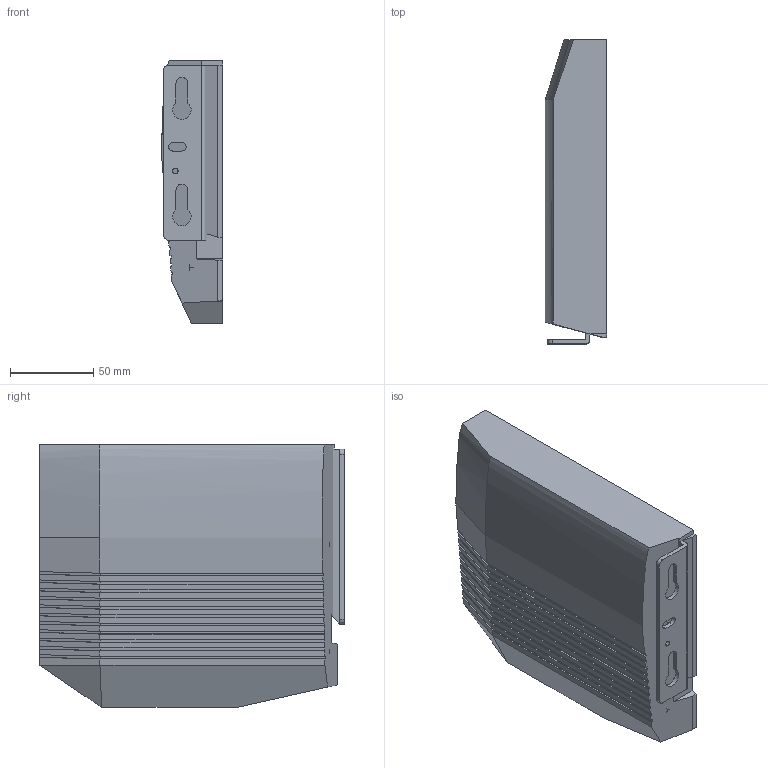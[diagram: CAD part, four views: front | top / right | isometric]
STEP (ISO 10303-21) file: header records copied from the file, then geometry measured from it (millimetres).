
FILE_DESCRIPTION (( 'STEP AP203' ), '1' );
FILE_NAME ('Kinvaro_T-75_rechts_D2762003325~0.step', '2012-05-04T06:54:46', ( 'admin' ), ( 'Hewlett-Packard Company' ), 'SwSTEP 2.0', 'SolidWorks 2011', '' );
FILE_SCHEMA (( 'CONFIG_CONTROL_DESIGN' ));
Length unit declared in the file: millimetre
Products named in the file (1): Kinvaro_T-75_rechts_D2762003325~0
Bounding box: 36.77 x 182.46 x 157.62 mm (x, y, z)
Volume: 857652.2 mm3; surface area: 81335.5 mm2
Topology: 1 solids, 1 shells, 129 faces, 364 edges, 241 vertices
Faces by surface type: plane 103, cylinder 24, bspline 2
Entity records: 4470 total; most frequent: CARTESIAN_POINT 1020, ORIENTED_EDGE 728, DIRECTION 655, EDGE_CURVE 364, VECTOR 309, LINE 309, VERTEX_POINT 241, AXIS2_PLACEMENT_3D 173
